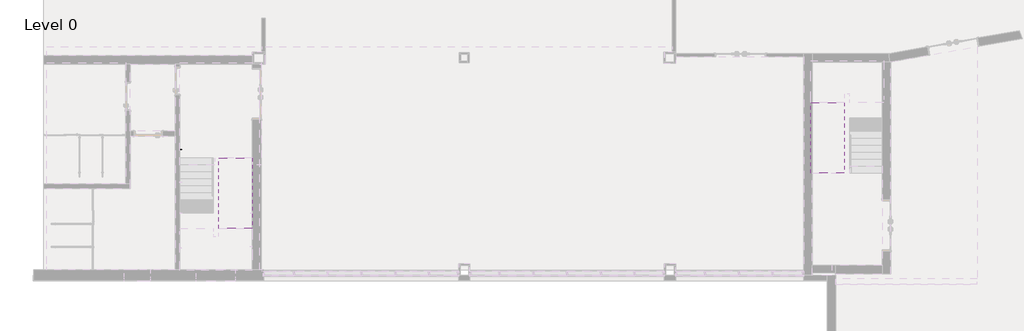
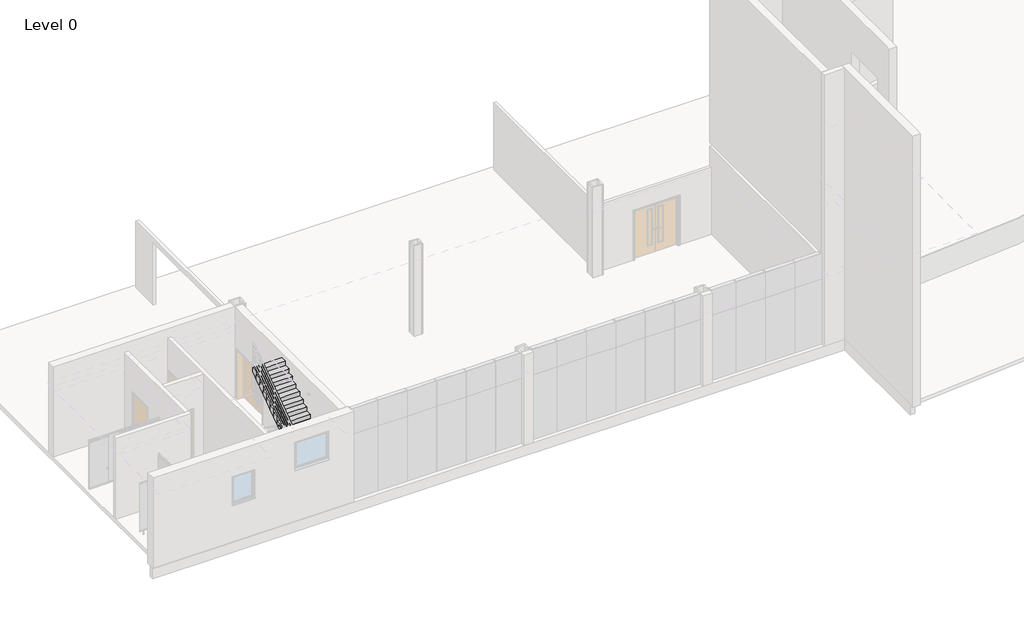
# One storey, part 12 of 14: 2 stair flights, 1 proxy.
"""IFC4 building model written with IfcOpenShell, lengths in millimetres."""

from ifc_helpers import new_model, si_unit, frame, origin, place, context, project, spatial, polyline, outline, extrude, faceted_brep, transform, mapped, element, save
from components import support_metal_circular_support_metal_circular_016e83f0

model = new_model("IFC4")

# Units and contexts
model_context = context("Model", 3, world=origin())
ifc_project = project(units=[si_unit("LENGTHUNIT", "METRE", prefix="MILLI")], contexts=[model_context])

# Site, building, storey
site = spatial("IfcSite", under=ifc_project)
building = spatial("IfcBuilding", under=site)
storey = spatial("IfcBuildingStorey", under=building, Name="Level 0", Elevation=0.0)

# Proxy
placement = place(None, origin())
support_metal_circular_support_metal_circular_shape = support_metal_circular_support_metal_circular_016e83f0(model_context)
element("IfcBuildingElementProxy", 1, Name="Support - Metal - Circular : Support - Metal - Circular", ObjectType="Support - Metal - Circular : Support - Metal - Circular", at=placement, inside=storey, context=model_context, shape_type="MappedRepresentation", body=[
    mapped(support_metal_circular_support_metal_circular_shape, transform((5322.6000024, 4600.0, 1059.7727273), x_axis=(0.0, 1.0, 0.0), y_axis=(-1.0, 0.0, 0.0), z_axis=(0.0, 0.0, 1.0))),
])

# Stair flights
element("IfcStairFlight", 2, ObjectType="1/16\"_Tread-6\"_Depth", at=placement, inside=storey, context=model_context, shape_type="SolidModel", body=[
    faceted_brep([(6637.2000025, 2050.0, 2126.2727273), (6637.2000025, 1800.0, 2126.2727273), (7837.2000023, 1800.0, 2126.2727273), (7837.2000023, 2050.0, 2126.2727273), (6637.2000025, 2050.0, 1942.3890055), (6637.2000025, 1800.0, 1765.1162782), (6637.2000025, 1800.0, 1949.0), (7837.2000023, 1800.0, 1765.1162782), (7837.2000023, 1800.0, 1949.0), (7837.2000023, 2050.0, 1942.3890055), (6637.2000025, 2300.0, 2303.5454545), (6637.2000025, 2050.0, 2303.5454545), (7837.2000023, 2050.0, 2303.5454545), (7837.2000023, 2300.0, 2303.5454545), (6637.2000025, 2300.0, 2119.6617328), (7837.2000023, 2300.0, 2119.6617328), (6637.2000025, 2550.0, 2480.8181818), (6637.2000025, 2300.0, 2480.8181818), (7837.2000023, 2300.0, 2480.8181818), (7837.2000023, 2550.0, 2480.8181818), (6637.2000025, 2550.0, 2296.93446), (7837.2000023, 2550.0, 2296.93446), (6637.2000025, 2800.0, 2658.0909091), (6637.2000025, 2550.0, 2658.0909091), (7837.2000023, 2550.0, 2658.0909091), (7837.2000023, 2800.0, 2658.0909091), (6637.2000025, 2800.0, 2474.2071873), (7837.2000023, 2800.0, 2474.2071873), (6637.2000025, 3050.0, 2835.3636364), (6637.2000025, 2800.0, 2835.3636364), (7837.2000023, 2800.0, 2835.3636364), (7837.2000023, 3050.0, 2835.3636364), (6637.2000025, 3050.0, 2651.4799146), (7837.2000023, 3050.0, 2651.4799146), (6637.2000025, 3300.0, 3012.6363636), (6637.2000025, 3050.0, 3012.6363636), (7837.2000023, 3050.0, 3012.6363636), (7837.2000023, 3300.0, 3012.6363636), (6637.2000025, 3300.0, 2828.7526418), (7837.2000023, 3300.0, 2828.7526418), (6637.2000025, 3550.0, 3189.9090909), (6637.2000025, 3300.0, 3189.9090909), (7837.2000023, 3300.0, 3189.9090909), (7837.2000023, 3550.0, 3189.9090909), (6637.2000025, 3550.0, 3006.0253691), (7837.2000023, 3550.0, 3006.0253691), (6637.2000025, 3800.0, 3367.1818182), (6637.2000025, 3550.0, 3367.1818182), (7837.2000023, 3550.0, 3367.1818182), (7837.2000023, 3800.0, 3367.1818182), (6637.2000025, 3800.0, 3183.2980964), (7837.2000023, 3800.0, 3183.2980964), (6637.2000025, 4050.0, 3544.4545455), (6637.2000025, 3800.0, 3544.4545455), (7837.2000023, 3800.0, 3544.4545455), (7837.2000023, 4050.0, 3544.4545455), (6637.2000025, 4050.0, 3360.5708237), (7837.2000023, 4050.0, 3360.5708237), (6637.2000025, 4300.0, 3537.8435509), (7837.2000023, 4300.0, 3537.8435509), (6637.2000025, 4300.0, 3721.7272727), (6637.2000025, 4050.0, 3721.7272727), (7837.2000023, 4050.0, 3721.7272727), (7837.2000023, 4300.0, 3721.7272727)], [[[0, 1, 2, 3]], [[1, 0, 4, 5, 6]], [[2, 1, 6, 5, 7, 8]], [[3, 2, 8, 7, 9]], [[10, 11, 12, 13]], [[11, 10, 14, 4, 0]], [[12, 11, 0, 3]], [[13, 12, 3, 9, 15]], [[16, 17, 18, 19]], [[17, 16, 20, 14, 10]], [[18, 17, 10, 13]], [[19, 18, 13, 15, 21]], [[22, 23, 24, 25]], [[23, 22, 26, 20, 16]], [[24, 23, 16, 19]], [[25, 24, 19, 21, 27]], [[28, 29, 30, 31]], [[29, 28, 32, 26, 22]], [[30, 29, 22, 25]], [[31, 30, 25, 27, 33]], [[34, 35, 36, 37]], [[35, 34, 38, 32, 28]], [[36, 35, 28, 31]], [[37, 36, 31, 33, 39]], [[40, 41, 42, 43]], [[41, 40, 44, 38, 34]], [[42, 41, 34, 37]], [[43, 42, 37, 39, 45]], [[46, 47, 48, 49]], [[47, 46, 50, 44, 40]], [[48, 47, 40, 43]], [[49, 48, 43, 45, 51]], [[52, 53, 54, 55]], [[53, 52, 56, 50, 46]], [[54, 53, 46, 49]], [[55, 54, 49, 51, 57]], [[5, 4, 14, 20, 26, 32, 38, 44, 50, 56, 58, 59, 57, 51, 45, 39, 33, 27, 21, 15, 9, 7]], [[60, 61, 62, 63]], [[61, 60, 58, 56, 52]], [[62, 61, 52, 55]], [[63, 62, 55, 57, 59]], [[60, 63, 59, 58]]]),
    extrude(outline(polyline([(6637.2000025, 2050.0), (7837.2000023, 2050.0), (7837.2000023, 1800.0), (6637.2000025, 1800.0), (6637.2000025, 2050.0)])), frame((0.0, 0.0, 2126.2727273), z_axis=(0.0, 0.0, 1.0), x_axis=(1.0, 0.0, 0.0)), (0.0, 0.0, 1.0), 1.0),
    extrude(outline(polyline([(6637.2000025, 2300.0), (7837.2000023, 2300.0), (7837.2000023, 2050.0), (6637.2000025, 2050.0), (6637.2000025, 2300.0)])), frame((0.0, 0.0, 2303.5454545), z_axis=(0.0, 0.0, 1.0), x_axis=(1.0, 0.0, 0.0)), (0.0, 0.0, 1.0), 1.0),
    extrude(outline(polyline([(6637.2000025, 2550.0), (7837.2000023, 2550.0), (7837.2000023, 2300.0), (6637.2000025, 2300.0), (6637.2000025, 2550.0)])), frame((0.0, 0.0, 2480.8181818), z_axis=(0.0, 0.0, 1.0), x_axis=(1.0, 0.0, 0.0)), (0.0, 0.0, 1.0), 1.0),
    extrude(outline(polyline([(6637.2000025, 2800.0), (7837.2000023, 2800.0), (7837.2000023, 2550.0), (6637.2000025, 2550.0), (6637.2000025, 2800.0)])), frame((0.0, 0.0, 2658.0909091), z_axis=(0.0, 0.0, 1.0), x_axis=(1.0, 0.0, 0.0)), (0.0, 0.0, 1.0), 1.0),
    extrude(outline(polyline([(6637.2000025, 3050.0), (7837.2000023, 3050.0), (7837.2000023, 2800.0), (6637.2000025, 2800.0), (6637.2000025, 3050.0)])), frame((0.0, 0.0, 2835.3636364), z_axis=(0.0, 0.0, 1.0), x_axis=(1.0, 0.0, 0.0)), (0.0, 0.0, 1.0), 1.0),
    extrude(outline(polyline([(6637.2000025, 3300.0), (7837.2000023, 3300.0), (7837.2000023, 3050.0), (6637.2000025, 3050.0), (6637.2000025, 3300.0)])), frame((0.0, 0.0, 3012.6363636), z_axis=(0.0, 0.0, 1.0), x_axis=(1.0, 0.0, 0.0)), (0.0, 0.0, 1.0), 1.0),
    extrude(outline(polyline([(6637.2000025, 3550.0), (7837.2000023, 3550.0), (7837.2000023, 3300.0), (6637.2000025, 3300.0), (6637.2000025, 3550.0)])), frame((0.0, 0.0, 3189.9090909), z_axis=(0.0, 0.0, 1.0), x_axis=(1.0, 0.0, 0.0)), (0.0, 0.0, 1.0), 1.0),
    extrude(outline(polyline([(6637.2000025, 3800.0), (7837.2000023, 3800.0), (7837.2000023, 3550.0), (6637.2000025, 3550.0), (6637.2000025, 3800.0)])), frame((0.0, 0.0, 3367.1818182), z_axis=(0.0, 0.0, 1.0), x_axis=(1.0, 0.0, 0.0)), (0.0, 0.0, 1.0), 1.0),
    extrude(outline(polyline([(6637.2000025, 4050.0), (7837.2000023, 4050.0), (7837.2000023, 3800.0), (6637.2000025, 3800.0), (6637.2000025, 4050.0)])), frame((0.0, 0.0, 3544.4545455), z_axis=(0.0, 0.0, 1.0), x_axis=(1.0, 0.0, 0.0)), (0.0, 0.0, 1.0), 1.0),
    extrude(outline(polyline([(6637.2000025, 4300.0), (7837.2000023, 4300.0), (7837.2000023, 4050.0), (6637.2000025, 4050.0), (6637.2000025, 4300.0)])), frame((0.0, 0.0, 3721.7272727), z_axis=(0.0, 0.0, 1.0), x_axis=(1.0, 0.0, 0.0)), (0.0, 0.0, 1.0), 1.0),
])
element("IfcStairFlight", 3, ObjectType="1/16\"_Tread-6\"_Depth", at=placement, inside=storey, context=model_context, shape_type="SolidModel", body=[
    faceted_brep([(28862.2000029, 6013.2000006, 2126.2727273), (28862.2000029, 6263.2000006, 2126.2727273), (27662.2000031, 6263.2000006, 2126.2727273), (27662.2000031, 6013.2000006, 2126.2727273), (28862.2000029, 6013.2000006, 1942.3890055), (28862.2000029, 6263.2000006, 1765.1162782), (28862.2000029, 6263.2000006, 1949.0), (27662.2000031, 6263.2000006, 1765.1162782), (27662.2000031, 6263.2000006, 1949.0), (27662.2000031, 6013.2000006, 1942.3890055), (28862.2000029, 5763.2000006, 2303.5454545), (28862.2000029, 6013.2000006, 2303.5454545), (27662.2000031, 6013.2000006, 2303.5454545), (27662.2000031, 5763.2000006, 2303.5454545), (28862.2000029, 5763.2000006, 2119.6617328), (27662.2000031, 5763.2000006, 2119.6617328), (28862.2000029, 5513.2000006, 2480.8181818), (28862.2000029, 5763.2000006, 2480.8181818), (27662.2000031, 5763.2000006, 2480.8181818), (27662.2000031, 5513.2000006, 2480.8181818), (28862.2000029, 5513.2000006, 2296.93446), (27662.2000031, 5513.2000006, 2296.93446), (28862.2000029, 5263.2000006, 2658.0909091), (28862.2000029, 5513.2000006, 2658.0909091), (27662.2000031, 5513.2000006, 2658.0909091), (27662.2000031, 5263.2000006, 2658.0909091), (28862.2000029, 5263.2000006, 2474.2071873), (27662.2000031, 5263.2000006, 2474.2071873), (28862.2000029, 5013.2000006, 2835.3636364), (28862.2000029, 5263.2000006, 2835.3636364), (27662.2000031, 5263.2000006, 2835.3636364), (27662.2000031, 5013.2000006, 2835.3636364), (28862.2000029, 5013.2000006, 2651.4799146), (27662.2000031, 5013.2000006, 2651.4799146), (28862.2000029, 4763.2000006, 3012.6363636), (28862.2000029, 5013.2000006, 3012.6363636), (27662.2000031, 5013.2000006, 3012.6363636), (27662.2000031, 4763.2000006, 3012.6363636), (28862.2000029, 4763.2000006, 2828.7526418), (27662.2000031, 4763.2000006, 2828.7526418), (28862.2000029, 4513.2000006, 3189.9090909), (28862.2000029, 4763.2000006, 3189.9090909), (27662.2000031, 4763.2000006, 3189.9090909), (27662.2000031, 4513.2000006, 3189.9090909), (28862.2000029, 4513.2000006, 3006.0253691), (27662.2000031, 4513.2000006, 3006.0253691), (28862.2000029, 4263.2000006, 3367.1818182), (28862.2000029, 4513.2000006, 3367.1818182), (27662.2000031, 4513.2000006, 3367.1818182), (27662.2000031, 4263.2000006, 3367.1818182), (28862.2000029, 4263.2000006, 3183.2980964), (27662.2000031, 4263.2000006, 3183.2980964), (28862.2000029, 4013.2000006, 3544.4545455), (28862.2000029, 4263.2000006, 3544.4545455), (27662.2000031, 4263.2000006, 3544.4545455), (27662.2000031, 4013.2000006, 3544.4545455), (28862.2000029, 4013.2000006, 3360.5708237), (27662.2000031, 4013.2000006, 3360.5708237), (28862.2000029, 3763.2000006, 3537.8435509), (27662.2000031, 3763.2000006, 3537.8435509), (28862.2000029, 3763.2000006, 3721.7272727), (28862.2000029, 4013.2000006, 3721.7272727), (27662.2000031, 4013.2000006, 3721.7272727), (27662.2000031, 3763.2000006, 3721.7272727)], [[[0, 1, 2, 3]], [[1, 0, 4, 5, 6]], [[2, 1, 6, 5, 7, 8]], [[3, 2, 8, 7, 9]], [[10, 11, 12, 13]], [[11, 10, 14, 4, 0]], [[12, 11, 0, 3]], [[13, 12, 3, 9, 15]], [[16, 17, 18, 19]], [[17, 16, 20, 14, 10]], [[18, 17, 10, 13]], [[19, 18, 13, 15, 21]], [[22, 23, 24, 25]], [[23, 22, 26, 20, 16]], [[24, 23, 16, 19]], [[25, 24, 19, 21, 27]], [[28, 29, 30, 31]], [[29, 28, 32, 26, 22]], [[30, 29, 22, 25]], [[31, 30, 25, 27, 33]], [[34, 35, 36, 37]], [[35, 34, 38, 32, 28]], [[36, 35, 28, 31]], [[37, 36, 31, 33, 39]], [[40, 41, 42, 43]], [[41, 40, 44, 38, 34]], [[42, 41, 34, 37]], [[43, 42, 37, 39, 45]], [[46, 47, 48, 49]], [[47, 46, 50, 44, 40]], [[48, 47, 40, 43]], [[49, 48, 43, 45, 51]], [[52, 53, 54, 55]], [[53, 52, 56, 50, 46]], [[54, 53, 46, 49]], [[55, 54, 49, 51, 57]], [[5, 4, 14, 20, 26, 32, 38, 44, 50, 56, 58, 59, 57, 51, 45, 39, 33, 27, 21, 15, 9, 7]], [[60, 61, 62, 63]], [[61, 60, 58, 56, 52]], [[62, 61, 52, 55]], [[63, 62, 55, 57, 59]], [[60, 63, 59, 58]]]),
    extrude(outline(polyline([(28862.2000029, 6013.2000006), (27662.2000031, 6013.2000006), (27662.2000031, 6263.2000006), (28862.2000029, 6263.2000006), (28862.2000029, 6013.2000006)])), frame((0.0, 0.0, 2126.2727273), z_axis=(0.0, 0.0, 1.0), x_axis=(1.0, 0.0, 0.0)), (0.0, 0.0, 1.0), 1.0),
    extrude(outline(polyline([(28862.2000029, 5763.2000006), (27662.2000031, 5763.2000006), (27662.2000031, 6013.2000006), (28862.2000029, 6013.2000006), (28862.2000029, 5763.2000006)])), frame((0.0, 0.0, 2303.5454545), z_axis=(0.0, 0.0, 1.0), x_axis=(1.0, 0.0, 0.0)), (0.0, 0.0, 1.0), 1.0),
    extrude(outline(polyline([(28862.2000029, 5513.2000006), (27662.2000031, 5513.2000006), (27662.2000031, 5763.2000006), (28862.2000029, 5763.2000006), (28862.2000029, 5513.2000006)])), frame((0.0, 0.0, 2480.8181818), z_axis=(0.0, 0.0, 1.0), x_axis=(1.0, 0.0, 0.0)), (0.0, 0.0, 1.0), 1.0),
    extrude(outline(polyline([(28862.2000029, 5263.2000006), (27662.2000031, 5263.2000006), (27662.2000031, 5513.2000006), (28862.2000029, 5513.2000006), (28862.2000029, 5263.2000006)])), frame((0.0, 0.0, 2658.0909091), z_axis=(0.0, 0.0, 1.0), x_axis=(1.0, 0.0, 0.0)), (0.0, 0.0, 1.0), 1.0),
    extrude(outline(polyline([(28862.2000029, 5013.2000006), (27662.2000031, 5013.2000006), (27662.2000031, 5263.2000006), (28862.2000029, 5263.2000006), (28862.2000029, 5013.2000006)])), frame((0.0, 0.0, 2835.3636364), z_axis=(0.0, 0.0, 1.0), x_axis=(1.0, 0.0, 0.0)), (0.0, 0.0, 1.0), 1.0),
    extrude(outline(polyline([(28862.2000029, 4763.2000006), (27662.2000031, 4763.2000006), (27662.2000031, 5013.2000006), (28862.2000029, 5013.2000006), (28862.2000029, 4763.2000006)])), frame((0.0, 0.0, 3012.6363636), z_axis=(0.0, 0.0, 1.0), x_axis=(1.0, 0.0, 0.0)), (0.0, 0.0, 1.0), 1.0),
    extrude(outline(polyline([(28862.2000029, 4513.2000006), (27662.2000031, 4513.2000006), (27662.2000031, 4763.2000006), (28862.2000029, 4763.2000006), (28862.2000029, 4513.2000006)])), frame((0.0, 0.0, 3189.9090909), z_axis=(0.0, 0.0, 1.0), x_axis=(1.0, 0.0, 0.0)), (0.0, 0.0, 1.0), 1.0),
    extrude(outline(polyline([(28862.2000029, 4263.2000006), (27662.2000031, 4263.2000006), (27662.2000031, 4513.2000006), (28862.2000029, 4513.2000006), (28862.2000029, 4263.2000006)])), frame((0.0, 0.0, 3367.1818182), z_axis=(0.0, 0.0, 1.0), x_axis=(1.0, 0.0, 0.0)), (0.0, 0.0, 1.0), 1.0),
    extrude(outline(polyline([(28862.2000029, 4013.2000006), (27662.2000031, 4013.2000006), (27662.2000031, 4263.2000006), (28862.2000029, 4263.2000006), (28862.2000029, 4013.2000006)])), frame((0.0, 0.0, 3544.4545455), z_axis=(0.0, 0.0, 1.0), x_axis=(1.0, 0.0, 0.0)), (0.0, 0.0, 1.0), 1.0),
    extrude(outline(polyline([(28862.2000029, 3763.2000006), (27662.2000031, 3763.2000006), (27662.2000031, 4013.2000006), (28862.2000029, 4013.2000006), (28862.2000029, 3763.2000006)])), frame((0.0, 0.0, 3721.7272727), z_axis=(0.0, 0.0, 1.0), x_axis=(1.0, 0.0, 0.0)), (0.0, 0.0, 1.0), 1.0),
])

save(model, "model.ifc")
